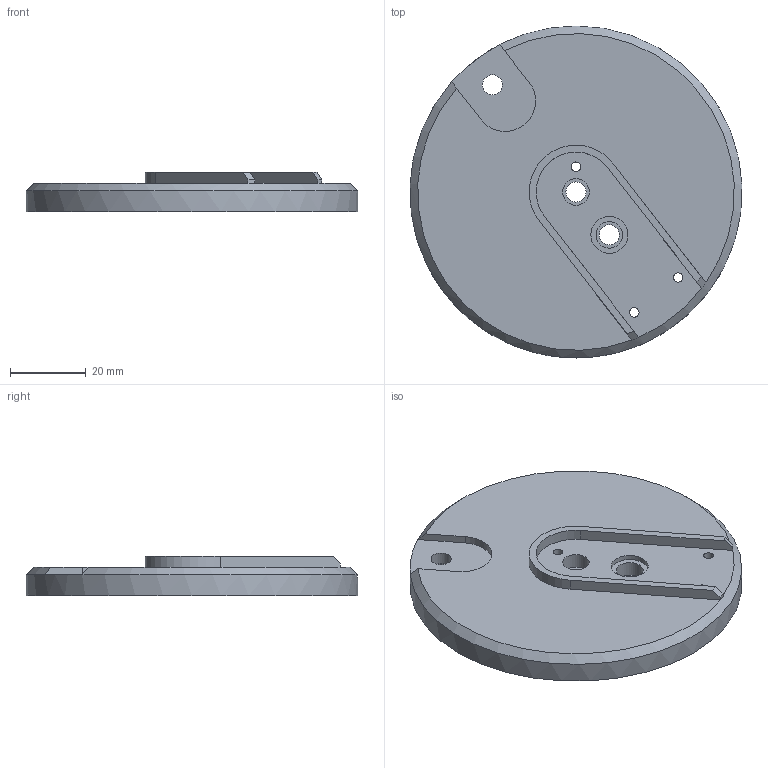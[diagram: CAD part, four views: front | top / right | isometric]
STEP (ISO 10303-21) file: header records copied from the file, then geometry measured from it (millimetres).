
FILE_DESCRIPTION(/* description */ ('STEP AP242','CAx-IF Rec.Pracs.---Representation and Presentation of Product Manufacturing Information (PMI)---4.0---2014-10-13','CAx-IF Rec.Pracs.---3D Tessellated Geometry---0.4---2014-09-14','2;1'),/* implementation_level */ '2;1');
FILE_NAME(/* name */ '687e6a35f344454910d47a6b',/* time_stamp */ '2025-07-21T16:26:29Z',/* author */ (''),/* organization */ (''),/* preprocessor_version */ 'ST-DEVELOPER v20',/* originating_system */ 'ONSHAPE BY PTC INC, 1.201',/* authorisation */ ' ');
FILE_SCHEMA (('AP242_MANAGED_MODEL_BASED_3D_ENGINEERING_MIM_LF { 1 0 10303 442 1 1 4 }'));
Length unit declared in the file: metre
Products named in the file (1): Rotary Hinge Left
Bounding box: 87.43 x 87.43 x 10.35 mm (x, y, z)
Volume: 40197.9 mm3; surface area: 15555.3 mm2
Topology: 1 solids, 1 shells, 38 faces, 93 edges, 62 vertices
Faces by surface type: plane 16, cylinder 16, cone 5, torus 1
Full cylindrical faces by diameter (mm): 2.5 x3, 5.3 x3, 7 x2, 9.75 x2, 87.427 x1
Entity records: 1040 total; most frequent: DIRECTION 184, CARTESIAN_POINT 180, ORIENTED_EDGE 140, AXIS2_PLACEMENT_3D 81, EDGE_CURVE 70, EDGE_LOOP 69, FACE_BOUND 69, VERTEX_POINT 53
